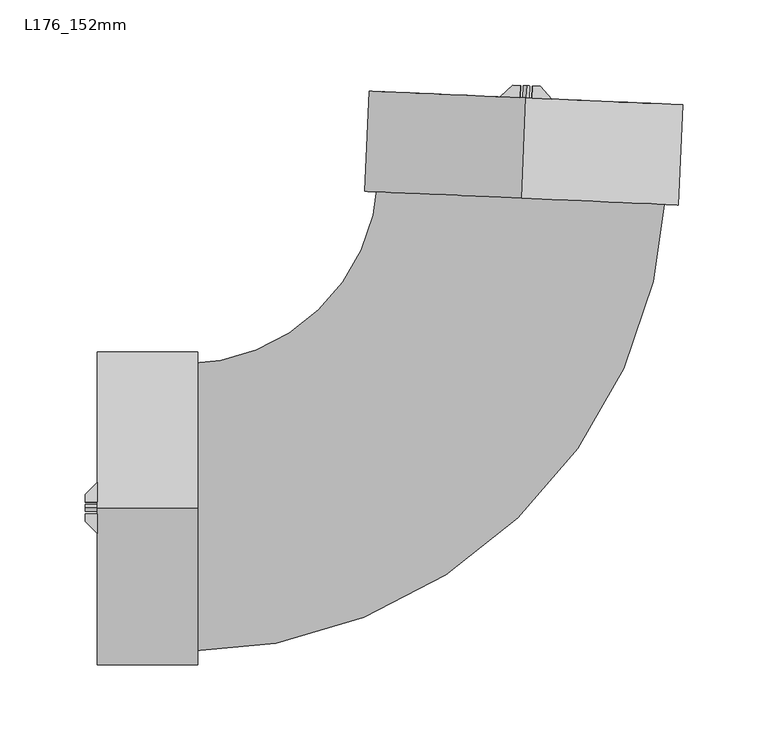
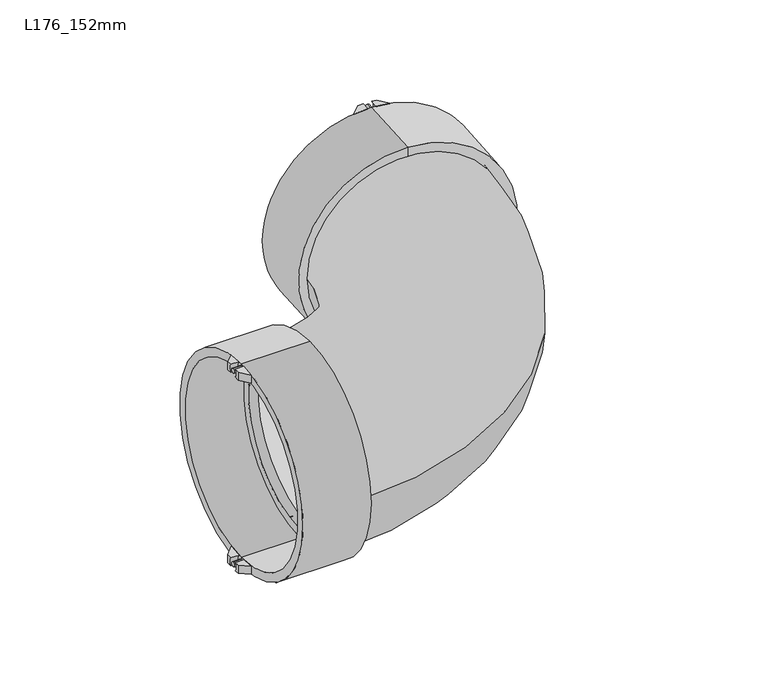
"""IFC4 building model written with IfcOpenShell, lengths in millimetres: pipe fitting geometry, Durapipe_PipeFitting_VulcatheneEnfusion_DoubleSocketLongSweepBend_L17 : L176_152mm."""

from ifc_helpers import new_model, si_unit, point, frame, frame_2d, origin, place, context, project, spatial, polyline, circle_curve, ellipse_curve, trimmed, segment, composite_curve, outline, extrude, source, transform, mapped, element, save
from ifc_brep_helpers import plane_surface, cylinder_surface, revolved_surface, advanced_brep


def l176_152mm_db715026(model_context):
    return source(origin(), model_context, "Body", "SolidModel", [
        advanced_brep(
        [(7.4156484, 247.7390083, -84.531746), (7.2740989, 247.7451884, -91.731746), (2.8776051, 247.9371435, -91.4559807), (2.8776051, 247.9371435, -84.2265778), (-4.4853729, 241.151854, -90.5662189), (6.9644013, 240.6519461, -91.731746), (7.1059508, 240.6457659, -84.531746), (-4.4853729, 241.151854, -83.259594)],
        [
            (0, 1, circle_curve(frame((10.810048, 247.5908056, -88.2), z_axis=(-0.04361938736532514, -0.9990482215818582, 0.0), x_axis=(0.0, 0.0, 1.0)), 5.0)),
            (1, 2, circle_curve(frame((10.810048, 247.5908056, 0.0), z_axis=(0.04361938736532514, 0.9990482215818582, 0.0), x_axis=(0.0, 0.0, 1.0)), 91.8)),
            (2, 3),
            (3, 0, circle_curve(frame((10.810048, 247.5908056, 0.0), z_axis=(-0.04361938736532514, -0.9990482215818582, 0.0), x_axis=(0.0, 0.0, 1.0)), 84.6)),
            (4, 5, circle_curve(frame((10.5003504, 240.4975632, 0.0), z_axis=(-0.04361938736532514, -0.9990482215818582, 0.0), x_axis=(0.0, 0.0, 1.0)), 91.8)),
            (5, 6, circle_curve(frame((10.5003504, 240.4975632, -88.2), z_axis=(0.04361938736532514, 0.9990482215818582, 0.0), x_axis=(0.0, 0.0, 1.0)), 5.0)),
            (6, 7, circle_curve(frame((10.5003504, 240.4975632, 0.0), z_axis=(0.04361938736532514, 0.9990482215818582, 0.0), x_axis=(0.0, 0.0, 1.0)), 84.6)),
            (7, 4),
            (6, 0),
            (3, 7, ellipse_curve(frame((11.1583482, 255.5681915, 0.0), z_axis=(-0.6776702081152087, 0.7353659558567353, 0.0), x_axis=(-0.7353659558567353, -0.6776702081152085, 0.0)), 119.9818766, 84.6)),
            (4, 2, ellipse_curve(frame((11.1583482, 255.5681915, 0.0), z_axis=(0.6776702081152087, -0.7353659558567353, 0.0), x_axis=(0.7353659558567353, 0.6776702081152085, 0.0)), 130.1931001, 91.8)),
            (1, 5),
        ],
        [
            plane_surface(frame((-4.1756753, 248.2450964, -90.5662189), z_axis=(0.04361938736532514, 0.9990482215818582, 0.0), x_axis=(0.0, 0.0, 1.0))),
            plane_surface(frame((-4.4853729, 241.151854, -90.5662189), z_axis=(-0.04361938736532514, -0.9990482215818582, 0.0), x_axis=(0.0, 0.0, -1.0))),
            revolved_surface(polyline([(7.447240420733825, 170.56984804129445, 84.6), (14.869456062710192, 340.56653495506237, 84.6)]), (10.5003504, 240.4975632, 0.0), (-0.04361938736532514, -0.9990482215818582, 0.0)),
            cylinder_surface(frame((10.5003504, 240.4975632, 0.0), z_axis=(0.04361938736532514, 0.9990482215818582, 0.0), x_axis=(0.0, 0.0, 1.0)), 91.8),
            revolved_surface(polyline([(10.810048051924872, 247.59080561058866, -83.2), (10.5003504, 240.4975632, -83.2)]), (10.5003504, 240.4975632, -88.2), (0.04361938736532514, 0.9990482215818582, 0.0)),
            plane_surface(frame((-4.4853729, 241.151854, 91.8), z_axis=(-0.6776702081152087, 0.7353659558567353, 0.0), x_axis=(0.0, 0.0, -1.0))),
        ],
        [
            (0, [[1, 2, 3, 4]]),
            (1, [[5, 6, 7, 8]]),
            (2, [[-7, 9, -4, 10]]),
            (3, [[-5, 11, -2, 12]]),
            (4, [[-1, -9, -6, -12]]),
            (5, [[-3, -11, -8, -10]]),
        ],
    ),
        advanced_brep(
        [(14.3459971, 247.4364227, -91.731746), (14.2044476, 247.4426029, -84.531746), (18.7424909, 247.2444676, -84.2265778), (18.7424909, 247.2444676, -91.4559807), (14.0362995, 240.3431803, -91.731746), (25.4860737, 239.8432724, -90.5662189), (25.4860737, 239.8432724, -83.259594), (13.89475, 240.3493605, -84.531746)],
        [
            (0, 1, circle_curve(frame((10.810048, 247.5908056, -88.2), z_axis=(-0.04361938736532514, -0.9990482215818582, 0.0), x_axis=(0.0, 0.0, 1.0)), 5.0)),
            (1, 2, circle_curve(frame((10.810048, 247.5908056, 0.0), z_axis=(-0.04361938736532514, -0.9990482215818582, 0.0), x_axis=(0.0, 0.0, 1.0)), 84.6)),
            (2, 3),
            (3, 0, circle_curve(frame((10.810048, 247.5908056, 0.0), z_axis=(0.04361938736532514, 0.9990482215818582, 0.0), x_axis=(0.0, 0.0, 1.0)), 91.8)),
            (4, 5, circle_curve(frame((10.5003504, 240.4975632, 0.0), z_axis=(-0.04361938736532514, -0.9990482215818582, 0.0), x_axis=(0.0, 0.0, 1.0)), 91.8)),
            (5, 6),
            (6, 7, circle_curve(frame((10.5003504, 240.4975632, 0.0), z_axis=(0.04361938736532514, 0.9990482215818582, 0.0), x_axis=(0.0, 0.0, 1.0)), 84.6)),
            (7, 4, circle_curve(frame((10.5003504, 240.4975632, -88.2), z_axis=(0.04361938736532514, 0.9990482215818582, 0.0), x_axis=(0.0, 0.0, 1.0)), 5.0)),
            (6, 2, ellipse_curve(frame((11.1583482, 255.5681915, 0.0), z_axis=(0.7391828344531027, 0.6735048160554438, 0.0), x_axis=(0.6735048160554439, -0.7391828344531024, 0.0)), 119.9818766, 84.6)),
            (1, 7),
            (4, 0),
            (3, 5, ellipse_curve(frame((11.1583482, 255.5681915, 0.0), z_axis=(-0.7391828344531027, -0.6735048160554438, 0.0), x_axis=(-0.6735048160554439, 0.7391828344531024, 0.0)), 130.1931001, 91.8)),
        ],
        [
            plane_surface(frame((-4.1756753, 248.2450964, -90.5662189), z_axis=(0.04361938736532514, 0.9990482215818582, 0.0), x_axis=(0.0, 0.0, 1.0))),
            plane_surface(frame((-4.4853729, 241.151854, -90.5662189), z_axis=(-0.04361938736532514, -0.9990482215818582, 0.0), x_axis=(0.0, 0.0, -1.0))),
            revolved_surface(polyline([(7.4472404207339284, 170.5698480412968, 84.6), (14.86945606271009, 340.56653495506, 84.6)]), (10.5003504, 240.4975632, 0.0), (-0.04361938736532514, -0.9990482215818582, 0.0)),
            cylinder_surface(frame((10.5003504, 240.4975632, 0.0), z_axis=(0.04361938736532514, 0.9990482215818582, 0.0), x_axis=(0.0, 0.0, 1.0)), 91.8),
            revolved_surface(polyline([(10.810048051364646, 247.5908055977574, -83.2), (10.50035039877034, 240.49756317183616, -83.2)]), (10.5003504, 240.4975632, -88.2), (0.04361938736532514, 0.9990482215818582, 0.0)),
            plane_surface(frame((18.7424909, 247.2444676, 91.8), z_axis=(0.7391828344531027, 0.6735048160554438, 0.0), x_axis=(0.0, 0.0, -1.0))),
        ],
        [
            (0, [[1, 2, 3, 4]]),
            (1, [[5, 6, 7, 8]]),
            (2, [[-7, 9, -2, 10]]),
            (3, [[-5, 11, -4, 12]]),
            (4, [[-1, -11, -8, -10]]),
            (5, [[-3, -9, -6, -12]]),
        ],
    ),
        advanced_brep(
        [(7.2740989, 247.7451884, 91.731746), (7.4156484, 247.7390083, 84.531746), (2.8776051, 247.9371435, 84.2265778), (2.8776051, 247.9371435, 91.4559807), (6.9644013, 240.6519461, 91.731746), (-4.4853729, 241.151854, 90.5662189), (-4.4853729, 241.151854, 83.259594), (7.1059508, 240.6457659, 84.531746)],
        [
            (0, 1, circle_curve(frame((10.810048, 247.5908056, 88.2), z_axis=(-0.04361938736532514, -0.9990482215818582, 0.0), x_axis=(0.0, 0.0, 1.0)), 5.0)),
            (1, 2, circle_curve(frame((10.810048, 247.5908056, 0.0), z_axis=(-0.04361938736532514, -0.9990482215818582, 0.0), x_axis=(0.0, 0.0, 1.0)), 84.6)),
            (2, 3),
            (3, 0, circle_curve(frame((10.810048, 247.5908056, 0.0), z_axis=(0.04361938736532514, 0.9990482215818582, 0.0), x_axis=(0.0, 0.0, 1.0)), 91.8)),
            (4, 5, circle_curve(frame((10.5003504, 240.4975632, 0.0), z_axis=(-0.04361938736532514, -0.9990482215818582, 0.0), x_axis=(0.0, 0.0, 1.0)), 91.8)),
            (5, 6),
            (6, 7, circle_curve(frame((10.5003504, 240.4975632, 0.0), z_axis=(0.04361938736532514, 0.9990482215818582, 0.0), x_axis=(0.0, 0.0, 1.0)), 84.6)),
            (7, 4, circle_curve(frame((10.5003504, 240.4975632, 88.2), z_axis=(0.04361938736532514, 0.9990482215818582, 0.0), x_axis=(0.0, 0.0, 1.0)), 5.0)),
            (6, 2, ellipse_curve(frame((11.1583482, 255.5681915, 0.0), z_axis=(-0.6776702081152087, 0.7353659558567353, 0.0), x_axis=(-0.7353659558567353, -0.6776702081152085, 0.0)), 119.9818766, 84.6)),
            (1, 7),
            (4, 0),
            (3, 5, ellipse_curve(frame((11.1583482, 255.5681915, 0.0), z_axis=(0.6776702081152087, -0.7353659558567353, 0.0), x_axis=(0.7353659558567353, 0.6776702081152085, 0.0)), 130.1931001, 91.8)),
        ],
        [
            plane_surface(frame((-4.1756753, 248.2450964, -90.5662189), z_axis=(0.04361938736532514, 0.9990482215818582, 0.0), x_axis=(0.0, 0.0, 1.0))),
            plane_surface(frame((-4.4853729, 241.151854, -90.5662189), z_axis=(-0.04361938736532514, -0.9990482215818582, 0.0), x_axis=(0.0, 0.0, -1.0))),
            revolved_surface(polyline([(7.447240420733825, 170.56984804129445, 84.6), (14.869456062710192, 340.56653495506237, 84.6)]), (10.5003504, 240.4975632, 0.0), (-0.04361938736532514, -0.9990482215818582, 0.0)),
            cylinder_surface(frame((10.5003504, 240.4975632, 0.0), z_axis=(0.04361938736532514, 0.9990482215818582, 0.0), x_axis=(0.0, 0.0, 1.0)), 91.8),
            revolved_surface(polyline([(10.810048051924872, 247.59080561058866, 93.2), (10.5003504, 240.4975632, 93.2)]), (10.5003504, 240.4975632, 88.2), (0.04361938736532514, 0.9990482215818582, 0.0)),
            plane_surface(frame((-4.4853729, 241.151854, 91.8), z_axis=(-0.6776702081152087, 0.7353659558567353, 0.0), x_axis=(0.0, 0.0, -1.0))),
        ],
        [
            (0, [[1, 2, 3, 4]]),
            (1, [[5, 6, 7, 8]]),
            (2, [[-7, 9, -2, 10]]),
            (3, [[-5, 11, -4, 12]]),
            (4, [[-1, -11, -8, -10]]),
            (5, [[-3, -9, -6, -12]]),
        ],
    ),
        advanced_brep(
        [(14.2044476, 247.4426029, 84.531746), (14.3459971, 247.4364227, 91.731746), (18.7424909, 247.2444676, 91.4559807), (18.7424909, 247.2444676, 84.2265778), (25.4860737, 239.8432724, 90.5662189), (14.0362995, 240.3431803, 91.731746), (13.89475, 240.3493605, 84.531746), (25.4860737, 239.8432724, 83.259594)],
        [
            (0, 1, circle_curve(frame((10.810048, 247.5908056, 88.2), z_axis=(-0.04361938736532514, -0.9990482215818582, 0.0), x_axis=(0.0, 0.0, 1.0)), 5.0)),
            (1, 2, circle_curve(frame((10.810048, 247.5908056, 0.0), z_axis=(0.04361938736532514, 0.9990482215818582, 0.0), x_axis=(0.0, 0.0, 1.0)), 91.8)),
            (2, 3),
            (3, 0, circle_curve(frame((10.810048, 247.5908056, 0.0), z_axis=(-0.04361938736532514, -0.9990482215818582, 0.0), x_axis=(0.0, 0.0, 1.0)), 84.6)),
            (4, 5, circle_curve(frame((10.5003504, 240.4975632, 0.0), z_axis=(-0.04361938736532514, -0.9990482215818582, 0.0), x_axis=(0.0, 0.0, 1.0)), 91.8)),
            (5, 6, circle_curve(frame((10.5003504, 240.4975632, 88.2), z_axis=(0.04361938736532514, 0.9990482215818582, 0.0), x_axis=(0.0, 0.0, 1.0)), 5.0)),
            (6, 7, circle_curve(frame((10.5003504, 240.4975632, 0.0), z_axis=(0.04361938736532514, 0.9990482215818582, 0.0), x_axis=(0.0, 0.0, 1.0)), 84.6)),
            (7, 4),
            (6, 0),
            (3, 7, ellipse_curve(frame((11.1583482, 255.5681915, 0.0), z_axis=(0.7391828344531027, 0.6735048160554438, 0.0), x_axis=(0.6735048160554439, -0.7391828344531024, 0.0)), 119.9818766, 84.6)),
            (4, 2, ellipse_curve(frame((11.1583482, 255.5681915, 0.0), z_axis=(-0.7391828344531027, -0.6735048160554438, 0.0), x_axis=(-0.6735048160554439, 0.7391828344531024, 0.0)), 130.1931001, 91.8)),
            (1, 5),
        ],
        [
            plane_surface(frame((-4.1756753, 248.2450964, -90.5662189), z_axis=(0.04361938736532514, 0.9990482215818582, 0.0), x_axis=(0.0, 0.0, 1.0))),
            plane_surface(frame((-4.4853729, 241.151854, -90.5662189), z_axis=(-0.04361938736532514, -0.9990482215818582, 0.0), x_axis=(0.0, 0.0, -1.0))),
            revolved_surface(polyline([(7.4472404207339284, 170.5698480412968, 84.6), (14.86945606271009, 340.56653495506, 84.6)]), (10.5003504, 240.4975632, 0.0), (-0.04361938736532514, -0.9990482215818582, 0.0)),
            cylinder_surface(frame((10.5003504, 240.4975632, 0.0), z_axis=(0.04361938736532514, 0.9990482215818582, 0.0), x_axis=(0.0, 0.0, 1.0)), 91.8),
            revolved_surface(polyline([(10.810048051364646, 247.5908055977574, 93.2), (10.50035039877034, 240.49756317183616, 93.2)]), (10.5003504, 240.4975632, 88.2), (0.04361938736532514, 0.9990482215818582, 0.0)),
            plane_surface(frame((18.7424909, 247.2444676, 91.8), z_axis=(0.7391828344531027, 0.6735048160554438, 0.0), x_axis=(0.0, 0.0, -1.0))),
        ],
        [
            (0, [[1, 2, 3, 4]]),
            (1, [[5, 6, 7, 8]]),
            (2, [[-7, 9, -4, 10]]),
            (3, [[-5, 11, -2, 12]]),
            (4, [[-1, -9, -6, -12]]),
            (5, [[-3, -11, -8, -10]]),
        ],
    ),
        extrude(outline(composite_curve([segment(trimmed(circle_curve(frame_2d((0.0, -2.0)), 2.0), [point((0.0, -4.0))], [point((0.0, 0.0))], False, "CARTESIAN"), True, "CONTINUOUS"), segment(trimmed(circle_curve(frame_2d((0.0, -2.0)), 2.0), [point((0.0, 0.0))], [point((0.0, -4.0))], False, "CARTESIAN"), True, "CONTINUOUS")], self_intersect=False)), frame((10.5003504, 240.4975632, -86.2), z_axis=(0.04361938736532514, 0.9990482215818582, 0.0), x_axis=(-0.9990482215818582, 0.04361938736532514, 0.0)), (0.0, 0.0, 1.0), 7.1),
        extrude(outline(composite_curve([segment(trimmed(circle_curve(frame_2d((0.0, 174.4)), 2.0), [point((0.0, 172.4))], [point((0.0, 176.4))], False, "CARTESIAN"), True, "CONTINUOUS"), segment(trimmed(circle_curve(frame_2d((0.0, 174.4)), 2.0), [point((0.0, 176.4))], [point((0.0, 172.4))], False, "CARTESIAN"), True, "CONTINUOUS")], self_intersect=False)), frame((10.5003504, 240.4975632, -86.2), z_axis=(0.04361938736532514, 0.9990482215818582, 0.0), x_axis=(-0.9990482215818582, 0.04361938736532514, 0.0)), (0.0, 0.0, 1.0), 7.1),
        advanced_brep(
        [(8.2844855, 189.7459135, -77.05), (8.2844855, 189.7459135, 77.05), (8.2844855, 189.7459135, 84.45), (8.2844855, 189.7459135, -84.45), (7.9355304, 181.7535278, -77.05), (7.9355304, 181.7535278, 77.05), (7.9355304, 181.7535278, -91.95), (7.9355304, 181.7535278, 91.95), (10.5003504, 240.4975632, -91.95), (10.5003504, 240.4975632, 91.95), (10.5003504, 240.4975632, -84.45), (10.5003504, 240.4975632, 84.45)],
        [
            (0, 1, circle_curve(frame((8.2844855, 189.7459135, 0.0), z_axis=(-0.04361938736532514, -0.9990482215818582, 0.0), x_axis=(0.0, 0.0, 1.0)), 77.05)),
            (1, 2),
            (2, 3, circle_curve(frame((8.2844855, 189.7459135, 0.0), z_axis=(0.04361938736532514, 0.9990482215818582, 0.0), x_axis=(0.0, 0.0, 1.0)), 84.45)),
            (3, 0),
            (1, 0, circle_curve(frame((8.2844855, 189.7459135, 0.0), z_axis=(-0.04361938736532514, -0.9990482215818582, 0.0), x_axis=(0.0, 0.0, 1.0)), 77.05)),
            (3, 2, circle_curve(frame((8.2844855, 189.7459135, 0.0), z_axis=(0.04361938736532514, 0.9990482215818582, 0.0), x_axis=(0.0, 0.0, 1.0)), 84.45)),
            (4, 5, circle_curve(frame((7.9355304, 181.7535278, 0.0), z_axis=(-0.04361938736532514, -0.9990482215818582, 0.0), x_axis=(0.0, 0.0, 1.0)), 77.05)),
            (5, 1),
            (0, 4),
            (5, 4, circle_curve(frame((7.9355304, 181.7535278, 0.0), z_axis=(-0.04361938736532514, -0.9990482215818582, 0.0), x_axis=(0.0, 0.0, 1.0)), 77.05)),
            (6, 7, circle_curve(frame((7.9355304, 181.7535278, 0.0), z_axis=(-0.04361938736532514, -0.9990482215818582, 0.0), x_axis=(0.0, 0.0, 1.0)), 91.95)),
            (7, 5),
            (4, 6),
            (7, 6, circle_curve(frame((7.9355304, 181.7535278, 0.0), z_axis=(-0.04361938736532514, -0.9990482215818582, 0.0), x_axis=(0.0, 0.0, 1.0)), 91.95)),
            (8, 9, circle_curve(frame((10.5003504, 240.4975632, 0.0), z_axis=(-0.04361938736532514, -0.9990482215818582, 0.0), x_axis=(0.0, 0.0, 1.0)), 91.95)),
            (9, 7),
            (6, 8),
            (9, 8, circle_curve(frame((10.5003504, 240.4975632, 0.0), z_axis=(-0.04361938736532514, -0.9990482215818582, 0.0), x_axis=(0.0, 0.0, 1.0)), 91.95)),
            (10, 11, circle_curve(frame((10.5003504, 240.4975632, 0.0), z_axis=(-0.04361938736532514, -0.9990482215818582, 0.0), x_axis=(0.0, 0.0, 1.0)), 84.45)),
            (11, 9),
            (8, 10),
            (11, 10, circle_curve(frame((10.5003504, 240.4975632, 0.0), z_axis=(-0.04361938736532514, -0.9990482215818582, 0.0), x_axis=(0.0, 0.0, 1.0)), 84.45)),
            (2, 11),
            (10, 3),
        ],
        [
            plane_surface(frame((8.2844855, 189.7459135, 0.0), z_axis=(0.04361938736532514, 0.9990482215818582, 0.0), x_axis=(0.0, 0.0, 1.0))),
            revolved_surface(polyline([(8.284485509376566, 189.7459134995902, 77.05), (7.935530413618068, 181.75352779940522, 77.05)]), (120.1587323, 2752.0874329, 0.0), (0.04361938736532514, 0.9990482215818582, 0.0)),
            plane_surface(frame((7.9355304, 181.7535278, 0.0), z_axis=(-0.04361938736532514, -0.9990482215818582, 0.0), x_axis=(0.0, 0.0, 1.0))),
            cylinder_surface(frame((120.1587323, 2752.0874329, 0.0), z_axis=(0.04361938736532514, 0.9990482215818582, 0.0), x_axis=(0.0, 0.0, 1.0)), 91.95),
            plane_surface(frame((10.5003504, 240.4975632, 0.0), z_axis=(0.04361938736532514, 0.9990482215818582, 0.0), x_axis=(0.0, 0.0, 1.0))),
            revolved_surface(polyline([(10.50035038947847, 240.49756320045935, 84.45), (8.284485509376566, 189.7459134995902, 84.45)]), (120.1587323, 2752.0874329, 0.0), (0.04361938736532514, 0.9990482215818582, 0.0)),
        ],
        [
            (0, [[1, 2, 3, 4]]),
            (0, [[5, -4, 6, -2]]),
            (1, [[7, 8, -1, 9]]),
            (1, [[10, -9, -5, -8]]),
            (2, [[11, 12, -7, 13]]),
            (2, [[14, -13, -10, -12]]),
            (3, [[15, 16, -11, 17]]),
            (3, [[18, -17, -14, -16]]),
            (4, [[19, 20, -15, 21]]),
            (4, [[22, -21, -18, -20]]),
            (5, [[-3, 23, -19, 24]]),
            (5, [[-6, -24, -22, -23]]),
        ],
    ),
        advanced_brep(
        [(-247.8266817, -3.3976334, -84.531746), (-247.8266817, -3.5393177, -91.731746), (-247.8266817, -7.94, -91.4559807), (-247.8266817, -7.94, -84.2265778), (-240.7266817, -15.0, -90.5662189), (-240.7266817, -3.5393177, -91.731746), (-240.7266817, -3.3976334, -84.531746), (-240.7266817, -15.0, -83.259594)],
        [
            (0, 1, circle_curve(frame((-247.8266817, 0.0, -88.2), z_axis=(1.0, 0.0, 0.0), x_axis=(0.0, 0.0, 1.0)), 5.0)),
            (1, 2, circle_curve(frame((-247.8266817, 0.0, 0.0), z_axis=(-1.0, 0.0, 0.0), x_axis=(0.0, 0.0, 1.0)), 91.8)),
            (2, 3),
            (3, 0, circle_curve(frame((-247.8266817, 0.0, 0.0), z_axis=(1.0, 0.0, 0.0), x_axis=(0.0, 0.0, 1.0)), 84.6)),
            (4, 5, circle_curve(frame((-240.7266817, 0.0, 0.0), z_axis=(1.0, 0.0, 0.0), x_axis=(0.0, 0.0, 1.0)), 91.8)),
            (5, 6, circle_curve(frame((-240.7266817, 0.0, -88.2), z_axis=(-1.0, 0.0, 0.0), x_axis=(0.0, 0.0, 1.0)), 5.0)),
            (6, 7, circle_curve(frame((-240.7266817, 0.0, 0.0), z_axis=(-1.0, 0.0, 0.0), x_axis=(0.0, 0.0, 1.0)), 84.6)),
            (7, 4),
            (6, 0),
            (3, 7, ellipse_curve(frame((-255.8116675, 0.0, 0.0), z_axis=(-0.705106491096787, -0.7091014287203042, 0.0), x_axis=(0.7091014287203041, -0.7051064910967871, 0.0)), 119.9818766, 84.6)),
            (4, 2, ellipse_curve(frame((-255.8116675, 0.0, 0.0), z_axis=(0.705106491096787, 0.7091014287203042, 0.0), x_axis=(-0.7091014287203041, 0.7051064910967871, 0.0)), 130.1931001, 91.8)),
            (1, 5),
        ],
        [
            plane_surface(frame((-247.8266817, -15.0, -90.5662189), z_axis=(-1.0, 0.0, 0.0), x_axis=(0.0, 0.0, 1.0))),
            plane_surface(frame((-240.7266817, -15.0, -90.5662189), z_axis=(1.0, 0.0, 0.0), x_axis=(0.0, 0.0, -1.0))),
            revolved_surface(polyline([(-170.73234738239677, 0.0, 84.6), (-340.89098761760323, 0.0, 84.6)]), (-240.7266817, 0.0, 0.0), (1.0, 0.0, 0.0)),
            cylinder_surface(frame((-240.7266817, 0.0, 0.0), z_axis=(-1.0, 0.0, 0.0), x_axis=(0.0, 0.0, 1.0)), 91.8),
            revolved_surface(polyline([(-247.8266817, 0.0, -83.2), (-240.7266817, 0.0, -83.2)]), (-240.7266817, 0.0, -88.2), (-1.0, 0.0, 0.0)),
            plane_surface(frame((-240.7266817, -15.0, 91.8), z_axis=(-0.705106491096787, -0.7091014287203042, 0.0), x_axis=(0.0, 0.0, -1.0))),
        ],
        [
            (0, [[1, 2, 3, 4]]),
            (1, [[5, 6, 7, 8]]),
            (2, [[-7, 9, -4, 10]]),
            (3, [[-5, 11, -2, 12]]),
            (4, [[-1, -9, -6, -12]]),
            (5, [[-3, -11, -8, -10]]),
        ],
    ),
        advanced_brep(
        [(-247.8266817, 3.5393177, -91.731746), (-247.8266817, 3.3976334, -84.531746), (-247.8266817, 7.94, -84.2265778), (-247.8266817, 7.94, -91.4559807), (-240.7266817, 3.5393177, -91.731746), (-240.7266817, 15.0, -90.5662189), (-240.7266817, 15.0, -83.259594), (-240.7266817, 3.3976334, -84.531746)],
        [
            (0, 1, circle_curve(frame((-247.8266817, 0.0, -88.2), z_axis=(1.0, 0.0, 0.0), x_axis=(0.0, 0.0, 1.0)), 5.0)),
            (1, 2, circle_curve(frame((-247.8266817, 0.0, 0.0), z_axis=(1.0, 0.0, 0.0), x_axis=(0.0, 0.0, 1.0)), 84.6)),
            (2, 3),
            (3, 0, circle_curve(frame((-247.8266817, 0.0, 0.0), z_axis=(-1.0, 0.0, 0.0), x_axis=(0.0, 0.0, 1.0)), 91.8)),
            (4, 5, circle_curve(frame((-240.7266817, 0.0, 0.0), z_axis=(1.0, 0.0, 0.0), x_axis=(0.0, 0.0, 1.0)), 91.8)),
            (5, 6),
            (6, 7, circle_curve(frame((-240.7266817, 0.0, 0.0), z_axis=(-1.0, 0.0, 0.0), x_axis=(0.0, 0.0, 1.0)), 84.6)),
            (7, 4, circle_curve(frame((-240.7266817, 0.0, -88.2), z_axis=(-1.0, 0.0, 0.0), x_axis=(0.0, 0.0, 1.0)), 5.0)),
            (6, 2, ellipse_curve(frame((-255.8116675, 0.0, 0.0), z_axis=(-0.7051064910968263, 0.7091014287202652, 0.0), x_axis=(0.7091014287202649, 0.7051064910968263, 0.0)), 119.9818766, 84.6)),
            (1, 7),
            (4, 0),
            (3, 5, ellipse_curve(frame((-255.8116675, 0.0, 0.0), z_axis=(0.7051064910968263, -0.7091014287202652, 0.0), x_axis=(-0.7091014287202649, -0.7051064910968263, 0.0)), 130.1931001, 91.8)),
        ],
        [
            plane_surface(frame((-247.8266817, -15.0, -90.5662189), z_axis=(-1.0, 0.0, 0.0), x_axis=(0.0, 0.0, 1.0))),
            plane_surface(frame((-240.7266817, -15.0, -90.5662189), z_axis=(1.0, 0.0, 0.0), x_axis=(0.0, 0.0, -1.0))),
            revolved_surface(polyline([(-170.73234738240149, 0.0, 84.6), (-340.8909876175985, 0.0, 84.6)]), (-240.7266817, 0.0, 0.0), (1.0, 0.0, 0.0)),
            cylinder_surface(frame((-240.7266817, 0.0, 0.0), z_axis=(-1.0, 0.0, 0.0), x_axis=(0.0, 0.0, 1.0)), 91.8),
            revolved_surface(polyline([(-247.8266817, 0.0, -83.2), (-240.7266817, 0.0, -83.2)]), (-240.7266817, 0.0, -88.2), (-1.0, 0.0, 0.0)),
            plane_surface(frame((-247.8266817, 7.94, 91.8), z_axis=(-0.7051064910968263, 0.7091014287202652, 0.0), x_axis=(0.0, 0.0, -1.0))),
        ],
        [
            (0, [[1, 2, 3, 4]]),
            (1, [[5, 6, 7, 8]]),
            (2, [[-7, 9, -2, 10]]),
            (3, [[-5, 11, -4, 12]]),
            (4, [[-1, -11, -8, -10]]),
            (5, [[-3, -9, -6, -12]]),
        ],
    ),
        advanced_brep(
        [(-247.8266817, -3.5393177, 91.731746), (-247.8266817, -3.3976334, 84.531746), (-247.8266817, -7.94, 84.2265778), (-247.8266817, -7.94, 91.4559807), (-240.7266817, -3.5393177, 91.731746), (-240.7266817, -15.0, 90.5662189), (-240.7266817, -15.0, 83.259594), (-240.7266817, -3.3976334, 84.531746)],
        [
            (0, 1, circle_curve(frame((-247.8266817, 0.0, 88.2), z_axis=(1.0, 0.0, 0.0), x_axis=(0.0, 0.0, 1.0)), 5.0)),
            (1, 2, circle_curve(frame((-247.8266817, 0.0, 0.0), z_axis=(1.0, 0.0, 0.0), x_axis=(0.0, 0.0, 1.0)), 84.6)),
            (2, 3),
            (3, 0, circle_curve(frame((-247.8266817, 0.0, 0.0), z_axis=(-1.0, 0.0, 0.0), x_axis=(0.0, 0.0, 1.0)), 91.8)),
            (4, 5, circle_curve(frame((-240.7266817, 0.0, 0.0), z_axis=(1.0, 0.0, 0.0), x_axis=(0.0, 0.0, 1.0)), 91.8)),
            (5, 6),
            (6, 7, circle_curve(frame((-240.7266817, 0.0, 0.0), z_axis=(-1.0, 0.0, 0.0), x_axis=(0.0, 0.0, 1.0)), 84.6)),
            (7, 4, circle_curve(frame((-240.7266817, 0.0, 88.2), z_axis=(-1.0, 0.0, 0.0), x_axis=(0.0, 0.0, 1.0)), 5.0)),
            (6, 2, ellipse_curve(frame((-255.8116675, 0.0, 0.0), z_axis=(-0.705106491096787, -0.7091014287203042, 0.0), x_axis=(0.7091014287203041, -0.7051064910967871, 0.0)), 119.9818766, 84.6)),
            (1, 7),
            (4, 0),
            (3, 5, ellipse_curve(frame((-255.8116675, 0.0, 0.0), z_axis=(0.705106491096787, 0.7091014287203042, 0.0), x_axis=(-0.7091014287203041, 0.7051064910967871, 0.0)), 130.1931001, 91.8)),
        ],
        [
            plane_surface(frame((-247.8266817, -15.0, -90.5662189), z_axis=(-1.0, 0.0, 0.0), x_axis=(0.0, 0.0, 1.0))),
            plane_surface(frame((-240.7266817, -15.0, -90.5662189), z_axis=(1.0, 0.0, 0.0), x_axis=(0.0, 0.0, -1.0))),
            revolved_surface(polyline([(-170.73234738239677, 0.0, 84.6), (-340.89098761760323, 0.0, 84.6)]), (-240.7266817, 0.0, 0.0), (1.0, 0.0, 0.0)),
            cylinder_surface(frame((-240.7266817, 0.0, 0.0), z_axis=(-1.0, 0.0, 0.0), x_axis=(0.0, 0.0, 1.0)), 91.8),
            revolved_surface(polyline([(-247.8266817, 0.0, 93.2), (-240.7266817, 0.0, 93.2)]), (-240.7266817, 0.0, 88.2), (-1.0, 0.0, 0.0)),
            plane_surface(frame((-240.7266817, -15.0, 91.8), z_axis=(-0.705106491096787, -0.7091014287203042, 0.0), x_axis=(0.0, 0.0, -1.0))),
        ],
        [
            (0, [[1, 2, 3, 4]]),
            (1, [[5, 6, 7, 8]]),
            (2, [[-7, 9, -2, 10]]),
            (3, [[-5, 11, -4, 12]]),
            (4, [[-1, -11, -8, -10]]),
            (5, [[-3, -9, -6, -12]]),
        ],
    ),
        advanced_brep(
        [(-247.8266817, 3.3976334, 84.531746), (-247.8266817, 3.5393177, 91.731746), (-247.8266817, 7.94, 91.4559807), (-247.8266817, 7.94, 84.2265778), (-240.7266817, 15.0, 90.5662189), (-240.7266817, 3.5393177, 91.731746), (-240.7266817, 3.3976334, 84.531746), (-240.7266817, 15.0, 83.259594)],
        [
            (0, 1, circle_curve(frame((-247.8266817, 0.0, 88.2), z_axis=(1.0, 0.0, 0.0), x_axis=(0.0, 0.0, 1.0)), 5.0)),
            (1, 2, circle_curve(frame((-247.8266817, 0.0, 0.0), z_axis=(-1.0, 0.0, 0.0), x_axis=(0.0, 0.0, 1.0)), 91.8)),
            (2, 3),
            (3, 0, circle_curve(frame((-247.8266817, 0.0, 0.0), z_axis=(1.0, 0.0, 0.0), x_axis=(0.0, 0.0, 1.0)), 84.6)),
            (4, 5, circle_curve(frame((-240.7266817, 0.0, 0.0), z_axis=(1.0, 0.0, 0.0), x_axis=(0.0, 0.0, 1.0)), 91.8)),
            (5, 6, circle_curve(frame((-240.7266817, 0.0, 88.2), z_axis=(-1.0, 0.0, 0.0), x_axis=(0.0, 0.0, 1.0)), 5.0)),
            (6, 7, circle_curve(frame((-240.7266817, 0.0, 0.0), z_axis=(-1.0, 0.0, 0.0), x_axis=(0.0, 0.0, 1.0)), 84.6)),
            (7, 4),
            (6, 0),
            (3, 7, ellipse_curve(frame((-255.8116675, 0.0, 0.0), z_axis=(-0.7051064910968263, 0.7091014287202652, 0.0), x_axis=(0.7091014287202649, 0.7051064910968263, 0.0)), 119.9818766, 84.6)),
            (4, 2, ellipse_curve(frame((-255.8116675, 0.0, 0.0), z_axis=(0.7051064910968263, -0.7091014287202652, 0.0), x_axis=(-0.7091014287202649, -0.7051064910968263, 0.0)), 130.1931001, 91.8)),
            (1, 5),
        ],
        [
            plane_surface(frame((-247.8266817, -15.0, -90.5662189), z_axis=(-1.0, 0.0, 0.0), x_axis=(0.0, 0.0, 1.0))),
            plane_surface(frame((-240.7266817, -15.0, -90.5662189), z_axis=(1.0, 0.0, 0.0), x_axis=(0.0, 0.0, -1.0))),
            revolved_surface(polyline([(-170.73234738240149, 0.0, 84.6), (-340.8909876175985, 0.0, 84.6)]), (-240.7266817, 0.0, 0.0), (1.0, 0.0, 0.0)),
            cylinder_surface(frame((-240.7266817, 0.0, 0.0), z_axis=(-1.0, 0.0, 0.0), x_axis=(0.0, 0.0, 1.0)), 91.8),
            revolved_surface(polyline([(-247.8266817, 0.0, 93.2), (-240.7266817, 0.0, 93.2)]), (-240.7266817, 0.0, 88.2), (-1.0, 0.0, 0.0)),
            plane_surface(frame((-247.8266817, 7.94, 91.8), z_axis=(-0.7051064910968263, 0.7091014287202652, 0.0), x_axis=(0.0, 0.0, -1.0))),
        ],
        [
            (0, [[1, 2, 3, 4]]),
            (1, [[5, 6, 7, 8]]),
            (2, [[-7, 9, -4, 10]]),
            (3, [[-5, 11, -2, 12]]),
            (4, [[-1, -9, -6, -12]]),
            (5, [[-3, -11, -8, -10]]),
        ],
    ),
        extrude(outline(composite_curve([segment(trimmed(circle_curve(frame_2d((0.0, -88.2)), 2.0), [point((0.0, -90.2))], [point((0.0, -86.2))], False, "CARTESIAN"), True, "CONTINUOUS"), segment(trimmed(circle_curve(frame_2d((0.0, -88.2)), 2.0), [point((0.0, -86.2))], [point((0.0, -90.2))], False, "CARTESIAN"), True, "CONTINUOUS")], self_intersect=False)), frame((-247.8266817, 0.0, 0.0), z_axis=(1.0, 0.0, 0.0), x_axis=(0.0, 1.0, 0.0)), (0.0, 0.0, 1.0), 7.1),
        extrude(outline(composite_curve([segment(trimmed(circle_curve(frame_2d((0.0, 88.2)), 2.0), [point((0.0, 86.2))], [point((0.0, 90.2))], False, "CARTESIAN"), True, "CONTINUOUS"), segment(trimmed(circle_curve(frame_2d((0.0, 88.2)), 2.0), [point((0.0, 90.2))], [point((0.0, 86.2))], False, "CARTESIAN"), True, "CONTINUOUS")], self_intersect=False)), frame((-247.8266817, 0.0, 0.0), z_axis=(1.0, 0.0, 0.0), x_axis=(0.0, 1.0, 0.0)), (0.0, 0.0, 1.0), 7.1),
        advanced_brep(
        [(-189.9266817, 0.0, -77.05), (-189.9266817, 0.0, 77.05), (-189.9266817, 0.0, 84.45), (-189.9266817, 0.0, -84.45), (-181.9266817, 0.0, -77.05), (-181.9266817, 0.0, 77.05), (-181.9266817, 0.0, -91.95), (-181.9266817, 0.0, 91.95), (-240.7266817, 0.0, -91.95), (-240.7266817, 0.0, 91.95), (-240.7266817, 0.0, -84.45), (-240.7266817, 0.0, 84.45)],
        [
            (0, 1, circle_curve(frame((-189.9266817, 0.0, 0.0), z_axis=(1.0, 0.0, 0.0), x_axis=(0.0, 0.0, 1.0)), 77.05)),
            (1, 2),
            (2, 3, circle_curve(frame((-189.9266817, 0.0, 0.0), z_axis=(-1.0, 0.0, 0.0), x_axis=(0.0, 0.0, 1.0)), 84.45)),
            (3, 0),
            (1, 0, circle_curve(frame((-189.9266817, 0.0, 0.0), z_axis=(1.0, 0.0, 0.0), x_axis=(0.0, 0.0, 1.0)), 77.05)),
            (3, 2, circle_curve(frame((-189.9266817, 0.0, 0.0), z_axis=(-1.0, 0.0, 0.0), x_axis=(0.0, 0.0, 1.0)), 84.45)),
            (4, 5, circle_curve(frame((-181.9266817, 0.0, 0.0), z_axis=(1.0, 0.0, 0.0), x_axis=(0.0, 0.0, 1.0)), 77.05)),
            (5, 1),
            (0, 4),
            (5, 4, circle_curve(frame((-181.9266817, 0.0, 0.0), z_axis=(1.0, 0.0, 0.0), x_axis=(0.0, 0.0, 1.0)), 77.05)),
            (6, 7, circle_curve(frame((-181.9266817, 0.0, 0.0), z_axis=(1.0, 0.0, 0.0), x_axis=(0.0, 0.0, 1.0)), 91.95)),
            (7, 5),
            (4, 6),
            (7, 6, circle_curve(frame((-181.9266817, 0.0, 0.0), z_axis=(1.0, 0.0, 0.0), x_axis=(0.0, 0.0, 1.0)), 91.95)),
            (8, 9, circle_curve(frame((-240.7266817, 0.0, 0.0), z_axis=(1.0, 0.0, 0.0), x_axis=(0.0, 0.0, 1.0)), 91.95)),
            (9, 7),
            (6, 8),
            (9, 8, circle_curve(frame((-240.7266817, 0.0, 0.0), z_axis=(1.0, 0.0, 0.0), x_axis=(0.0, 0.0, 1.0)), 91.95)),
            (10, 11, circle_curve(frame((-240.7266817, 0.0, 0.0), z_axis=(1.0, 0.0, 0.0), x_axis=(0.0, 0.0, 1.0)), 84.45)),
            (11, 9),
            (8, 10),
            (11, 10, circle_curve(frame((-240.7266817, 0.0, 0.0), z_axis=(1.0, 0.0, 0.0), x_axis=(0.0, 0.0, 1.0)), 84.45)),
            (2, 11),
            (10, 3),
        ],
        [
            plane_surface(frame((-189.9266817, 0.0, 0.0), z_axis=(-1.0, 0.0, 0.0), x_axis=(0.0, 0.0, 1.0))),
            revolved_surface(polyline([(-189.9266816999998, 0.0, 77.05), (-181.9266816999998, 0.0, 77.05)]), (-2754.7093057, 0.0, 0.0), (-1.0, 0.0, 0.0)),
            plane_surface(frame((-181.9266817, 0.0, 0.0), z_axis=(1.0, 0.0, 0.0), x_axis=(0.0, 0.0, 1.0))),
            cylinder_surface(frame((-2754.7093057, 0.0, 0.0), z_axis=(-1.0, 0.0, 0.0), x_axis=(0.0, 0.0, 1.0)), 91.95),
            plane_surface(frame((-240.7266817, 0.0, 0.0), z_axis=(-1.0, 0.0, 0.0), x_axis=(0.0, 0.0, 1.0))),
            revolved_surface(polyline([(-240.72668169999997, 0.0, 84.45), (-189.9266816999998, 0.0, 84.45)]), (-2754.7093057, 0.0, 0.0), (-1.0, 0.0, 0.0)),
        ],
        [
            (0, [[1, 2, 3, 4]]),
            (0, [[5, -4, 6, -2]]),
            (1, [[7, 8, -1, 9]]),
            (1, [[10, -9, -5, -8]]),
            (2, [[11, 12, -7, 13]]),
            (2, [[14, -13, -10, -12]]),
            (3, [[15, 16, -11, 17]]),
            (3, [[18, -17, -14, -16]]),
            (4, [[19, 20, -15, 21]]),
            (4, [[22, -21, -18, -20]]),
            (5, [[-3, 23, -19, 24]]),
            (5, [[-6, -24, -22, -23]]),
        ],
    ),
        advanced_brep(
        [(-189.9266817, -84.45, 0.0), (-189.9266817, 84.45, 0.0), (-189.9266817, -77.05, 0.0), (-189.9266817, 77.05, 0.0), (92.6541078, 186.0622563, 0.0), (-76.0851368, 193.4295708, 0.0), (85.261151, 186.3850398, 0.0), (-68.69218, 193.1067873, 0.0)],
        [
            (0, 1, circle_curve(frame((-189.9266817, 0.0, 0.0), z_axis=(-1.0, 0.0, 0.0), x_axis=(0.0, 1.0, 0.0)), 84.45)),
            (1, 0, circle_curve(frame((-189.9266817, 0.0, 0.0), z_axis=(-1.0, 0.0, 0.0), x_axis=(0.0, 1.0, 0.0)), 84.45)),
            (2, 3, circle_curve(frame((-189.9266817, 0.0, 0.0), z_axis=(1.0, 0.0, 0.0), x_axis=(0.0, 1.0, 0.0)), 77.05)),
            (3, 2, circle_curve(frame((-189.9266817, 0.0, 0.0), z_axis=(1.0, 0.0, 0.0), x_axis=(0.0, 1.0, 0.0)), 77.05)),
            (4, 5, circle_curve(frame((8.2844855, 189.7459135, 0.0), z_axis=(0.04361938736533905, 0.9990482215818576, 0.0), x_axis=(-0.9990482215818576, 0.04361938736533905, 0.0)), 84.45)),
            (5, 4, circle_curve(frame((8.2844855, 189.7459135, 0.0), z_axis=(0.04361938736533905, 0.9990482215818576, 0.0), x_axis=(-0.9990482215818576, 0.04361938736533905, 0.0)), 84.45)),
            (6, 7, circle_curve(frame((8.2844855, 189.7459135, 0.0), z_axis=(-0.04361938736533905, -0.9990482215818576, 0.0), x_axis=(-0.9990482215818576, 0.04361938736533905, 0.0)), 77.05)),
            (7, 6, circle_curve(frame((8.2844855, 189.7459135, 0.0), z_axis=(-0.04361938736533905, -0.9990482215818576, 0.0), x_axis=(-0.9990482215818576, 0.04361938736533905, 0.0)), 77.05)),
            (5, 1, circle_curve(frame((-189.9266817, 198.4, 0.0), z_axis=(0.0, 0.0, -1.0), x_axis=(0.0, -1.0, 0.0)), 113.95)),
            (0, 4, circle_curve(frame((-189.9266817, 198.4, 0.0), z_axis=(0.0, 0.0, 1.0), x_axis=(0.0, -1.0, 0.0)), 282.85)),
            (7, 3, circle_curve(frame((-189.9266817, 198.4, 0.0), z_axis=(0.0, 0.0, -1.0), x_axis=(0.0, -1.0, 0.0)), 121.35)),
            (2, 6, circle_curve(frame((-189.9266817, 198.4, 0.0), z_axis=(0.0, 0.0, 1.0), x_axis=(0.0, -1.0, 0.0)), 275.45)),
        ],
        [
            plane_surface(frame((-189.9266817, 0.0, 0.0), z_axis=(-1.0, 0.0, 0.0), x_axis=(0.0, 0.0, 1.0))),
            plane_surface(frame((8.2844855, 189.7459135, 0.0), z_axis=(0.043619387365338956, 0.9990482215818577, 0.0), x_axis=(0.0, 0.0, 1.0))),
            revolved_surface(trimmed(ellipse_curve(frame((-189.9266817, 0.0, 0.0), z_axis=(-1.0, 0.0, 0.0), x_axis=(0.0, 1.0, 0.0)), 84.45, 84.45), [point((-189.9266817, -84.45, 0.0))], [point((-189.9266817, 84.45, 0.0))], True, "CARTESIAN"), (-189.9266817, 198.4, 0.0), (0.0, 0.0, 1.0)),
            revolved_surface(trimmed(ellipse_curve(frame((-189.9266817, 0.0, 0.0), z_axis=(-1.0, 0.0, 0.0), x_axis=(0.0, 1.0, 0.0)), 84.45, 84.45), [point((-189.9266817, 84.45, 0.0))], [point((-189.9266817, -84.45, 0.0))], True, "CARTESIAN"), (-189.9266817, 198.4, 0.0), (0.0, 0.0, 1.0)),
            revolved_surface(trimmed(ellipse_curve(frame((-189.9266817, 0.0, 0.0), z_axis=(1.0, 0.0, 0.0), x_axis=(0.0, 1.0, 0.0)), 77.05, 77.05), [point((-189.9266817, -77.05, 0.0))], [point((-189.9266817, 77.05, 0.0))], True, "CARTESIAN"), (-189.9266817, 198.4, 0.0), (0.0, 0.0, 1.0)),
            revolved_surface(trimmed(ellipse_curve(frame((-189.9266817, 0.0, 0.0), z_axis=(1.0, 0.0, 0.0), x_axis=(0.0, 1.0, 0.0)), 77.05, 77.05), [point((-189.9266817, 77.05, 0.0))], [point((-189.9266817, -77.05, 0.0))], True, "CARTESIAN"), (-189.9266817, 198.4, 0.0), (0.0, 0.0, 1.0)),
        ],
        [
            (0, [[1, 2], [3, 4]]),
            (1, [[5, 6], [7, 8]]),
            (2, [[9, -1, 10, -6]]),
            (3, [[-10, -2, -9, -5]]),
            (4, [[11, -3, 12, -8]]),
            (5, [[-12, -4, -11, -7]]),
        ],
    ),
    ])


if __name__ == "__main__":
    model = new_model("IFC4")
    model_context = context("Model", 3, world=origin())
    ifc_project = project(units=[si_unit("LENGTHUNIT", "METRE", prefix="MILLI")], contexts=[model_context])
    site = spatial("IfcSite", under=ifc_project)
    building = spatial("IfcBuilding", under=site)
    placement = place(None, origin())
    l176_152mm_shape = l176_152mm_db715026(model_context)
    element("IfcPipeFitting", 1, ObjectType="Durapipe_PipeFitting_VulcatheneEnfusion_DoubleSocketLongSweepBend_L17 : L176_152mm", at=placement, inside=building, context=model_context, shape_type="MappedRepresentation", body=[
        mapped(l176_152mm_shape, transform((0.0, 0.0, 0.0), x_axis=(1.0, 0.0, 0.0), y_axis=(0.0, 1.0, 0.0), z_axis=(0.0, 0.0, 1.0))),
    ])
    save(model, "model.ifc")
